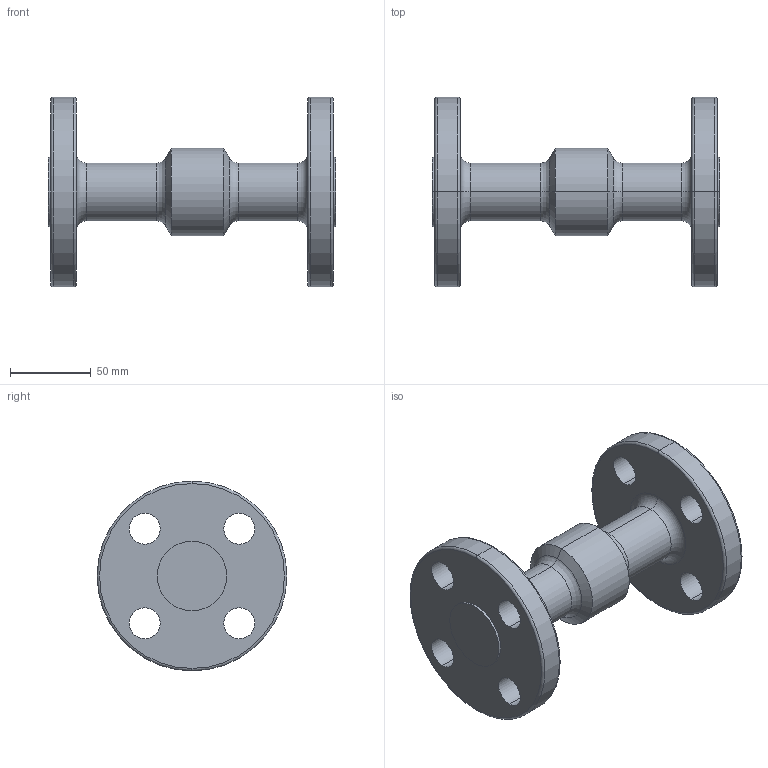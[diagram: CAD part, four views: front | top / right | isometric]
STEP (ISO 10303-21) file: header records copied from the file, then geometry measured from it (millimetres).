
FILE_DESCRIPTION (( 'STEP AP203' ), '1' );
FILE_NAME ('DLC .75-300.STEP', '2016-04-21T15:42:38', ( '' ), ( '' ), 'SwSTEP 2.0', 'SolidWorks 2015', '' );
FILE_SCHEMA (( 'CONFIG_CONTROL_DESIGN' ));
Length unit declared in the file: inch
Products named in the file (1): DLC .75-300
Bounding box: 177.8 x 117.35 x 117.35 mm (x, y, z)
Volume: 503351.1 mm3; surface area: 74333.5 mm2
Topology: 1 solids, 1 shells, 56 faces, 126 edges, 76 vertices
Faces by surface type: cylinder 30, torus 16, plane 6, cone 4
Entity records: 1701 total; most frequent: DIRECTION 332, CARTESIAN_POINT 259, ORIENTED_EDGE 252, AXIS2_PLACEMENT_3D 149, EDGE_CURVE 126, CIRCLE 92, VERTEX_POINT 76, EDGE_LOOP 76
